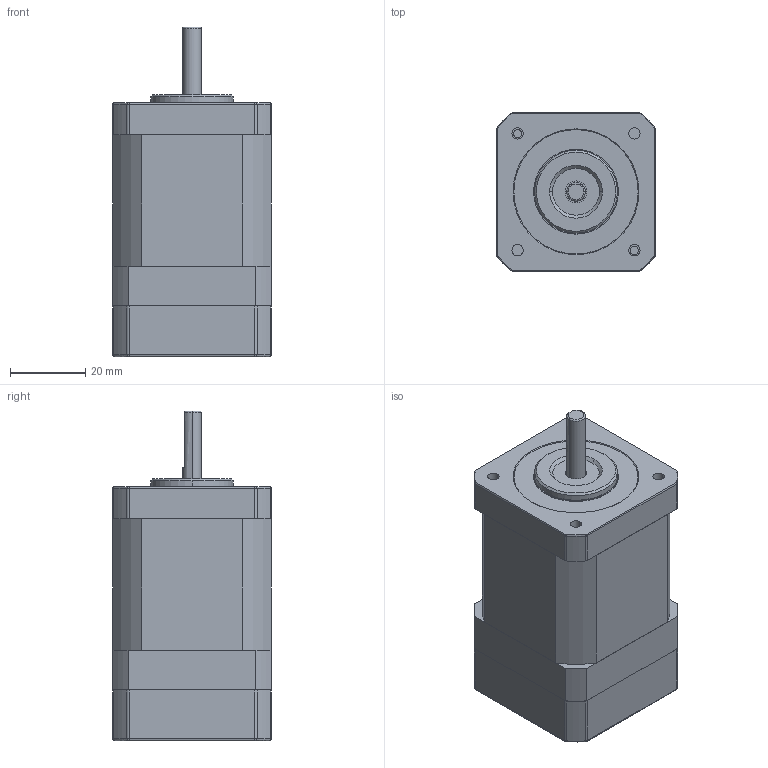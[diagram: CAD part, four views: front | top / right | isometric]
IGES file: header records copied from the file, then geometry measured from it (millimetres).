
Start section: SolidWorks IGES file using analytic representation for surfaces
Global section: file name: \\192.168.10.221\kari\7677\ステップ\PMSB-B42D4E\PMSB-B42D4E.IGS; native system: SolidWorks 2009; preprocessor: SolidWorks 2009; author: 3dcad; date: 110331.143236; units: millimetre
Bounding box: 42 x 42 x 87.5 mm (x, y, z)
Volume: 55227.4 mm3; surface area: 49036.5 mm2
Topology: 11 solids, 11 shells, 1400 faces, 3741 edges, 2380 vertices
Faces by surface type: revolution 735, plane 655, bspline 10
